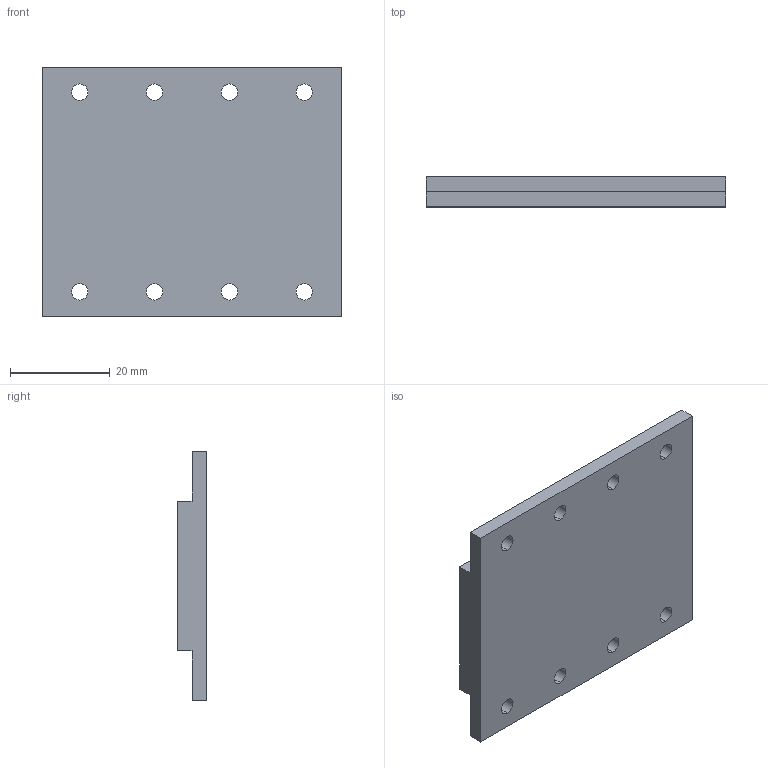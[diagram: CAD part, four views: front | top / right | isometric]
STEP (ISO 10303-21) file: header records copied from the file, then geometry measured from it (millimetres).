
FILE_DESCRIPTION (( 'STEP AP203' ), '1' );
FILE_NAME ('DPN40M60.STEP', '2017-12-15T06:50:21', ( 'Windows 蚚誧' ), ( '' ), 'SwSTEP 2.0', 'SolidWorks 2016', '' );
FILE_SCHEMA (( 'CONFIG_CONTROL_DESIGN' ));
Length unit declared in the file: millimetre
Products named in the file (1): DPN40M60
Bounding box: 60 x 6 x 50 mm (x, y, z)
Volume: 14194.7 mm3; surface area: 7312 mm2
Topology: 1 solids, 1 shells, 26 faces, 72 edges, 48 vertices
Faces by surface type: cylinder 16, plane 10
Entity records: 957 total; most frequent: DIRECTION 158, CARTESIAN_POINT 147, ORIENTED_EDGE 144, EDGE_CURVE 72, AXIS2_PLACEMENT_3D 59, VERTEX_POINT 48, EDGE_LOOP 42, LINE 40
